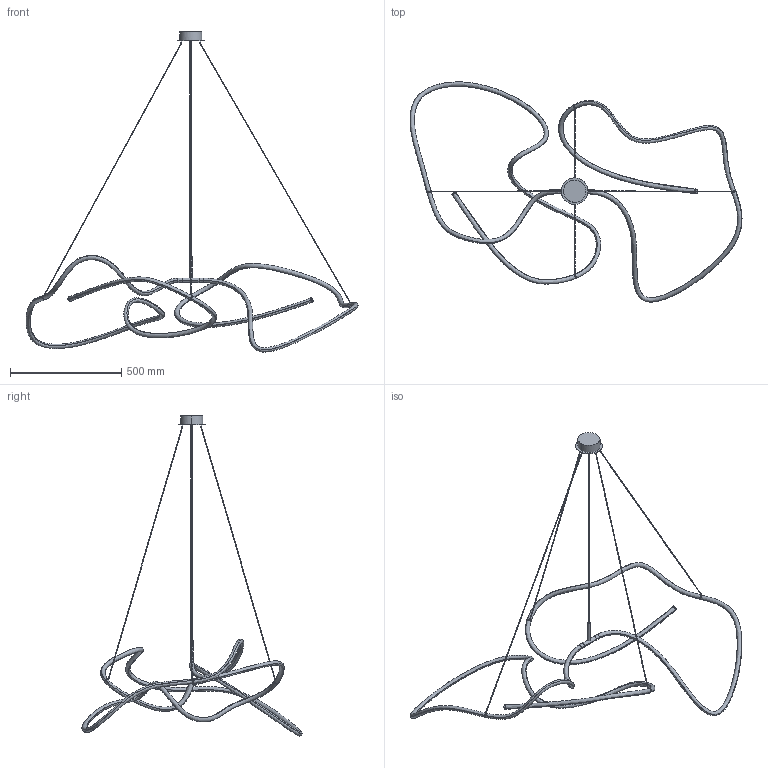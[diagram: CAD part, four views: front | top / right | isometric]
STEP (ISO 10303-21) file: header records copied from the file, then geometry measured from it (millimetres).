
FILE_DESCRIPTION(/* description */ (''),/* implementation_level */ '2;1');
FILE_NAME(/* name */ 'Ghost Chandelier Metal',/* time_stamp */ '2024-02-21T11:09:55+01:00',/* author */ (''),/* organization */ (''),/* preprocessor_version */ 'ST-DEVELOPER v16.5',/* originating_system */ 'Rhino 7.36',/* authorisation */ '');
FILE_SCHEMA (('CONFIG_CONTROL_DESIGN'));
Length unit declared in the file: millimetre
Products named in the file (1): Document
Bounding box: 1495 x 991.29 x 1442.15 mm (x, y, z)
Volume: 484940.8 mm3; surface area: 609274.8 mm2
Topology: 25 solids, 29 shells, 104 faces, 174 edges, 130 vertices
Faces by surface type: bspline 104
Entity records: 12905 total; most frequent: CARTESIAN_POINT 10746, ORIENTED_EDGE 316, PCURVE 316, DEFINITIONAL_REPRESENTATION 316, B_SPLINE_CURVE_WITH_KNOTS 242, SURFACE_CURVE 166, EDGE_CURVE 166, VERTEX_POINT 116
